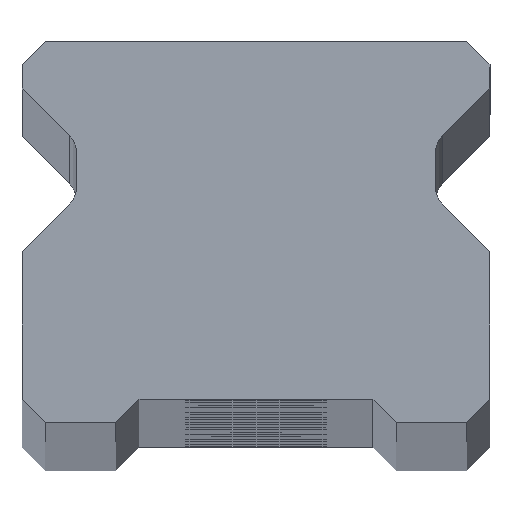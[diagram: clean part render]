
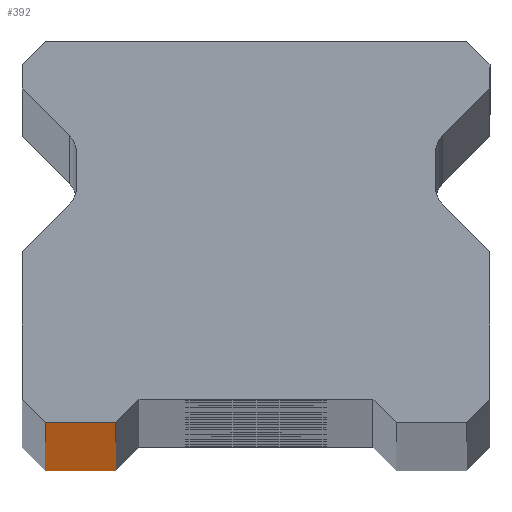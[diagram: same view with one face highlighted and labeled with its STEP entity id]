
A CAD part, top view. The second image highlights one B-rep face of the part: STEP entity #392.
In plain terms, the highlighted planar face has unit normal (0, -1, 0).
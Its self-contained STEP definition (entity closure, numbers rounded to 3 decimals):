
#63 = CARTESIAN_POINT ( 'NONE',  ( -6., 0., 590. ) ) ;
#316 = VECTOR ( 'NONE', #3672, 1000. ) ;
#318 = CARTESIAN_POINT ( 'NONE',  ( -6., 0., -590. ) ) ;
#392 = ADVANCED_FACE ( 'NONE', ( #1757 ), #2654, .F. ) ;
#437 = CARTESIAN_POINT ( 'NONE',  ( -6., 0., -590. ) ) ;
#467 = DIRECTION ( 'NONE',  ( 0., 0., -1. ) ) ;
#817 = EDGE_CURVE ( 'NONE', #2786, #1262, #3718, .T. ) ;
#838 = DIRECTION ( 'NONE',  ( 1., 0., 0. ) ) ;
#997 = VECTOR ( 'NONE', #1566, 1000. ) ;
#1137 = LINE ( 'NONE', #3721, #316 ) ;
#1141 = EDGE_CURVE ( 'NONE', #1262, #1530, #1137, .T. ) ;
#1262 = VERTEX_POINT ( 'NONE', #2136 ) ;
#1382 = DIRECTION ( 'NONE',  ( -1., 0., 0. ) ) ;
#1523 = VECTOR ( 'NONE', #838, 1000. ) ;
#1530 = VERTEX_POINT ( 'NONE', #437 ) ;
#1566 = DIRECTION ( 'NONE',  ( 0., 0., 1. ) ) ;
#1737 = DIRECTION ( 'NONE',  ( 0., 1., 0. ) ) ;
#1757 = FACE_OUTER_BOUND ( 'NONE', #3418, .T. ) ;
#1825 = ORIENTED_EDGE ( 'NONE', *, *, #1141, .T. ) ;
#1907 = EDGE_CURVE ( 'NONE', #1530, #3924, #3772, .T. ) ;
#1964 = CARTESIAN_POINT ( 'NONE',  ( -9., 0., 590. ) ) ;
#2091 = CARTESIAN_POINT ( 'NONE',  ( 10., 0., 590. ) ) ;
#2136 = CARTESIAN_POINT ( 'NONE',  ( -9., 0., -590. ) ) ;
#2243 = VECTOR ( 'NONE', #467, 1000. ) ;
#2272 = CARTESIAN_POINT ( 'NONE',  ( -9., 0., 590. ) ) ;
#2442 = EDGE_CURVE ( 'NONE', #2786, #3924, #3625, .T. ) ;
#2654 = PLANE ( 'NONE',  #3662 ) ;
#2786 = VERTEX_POINT ( 'NONE', #2272 ) ;
#3036 = ORIENTED_EDGE ( 'NONE', *, *, #2442, .F. ) ;
#3270 = ORIENTED_EDGE ( 'NONE', *, *, #817, .T. ) ;
#3418 = EDGE_LOOP ( 'NONE', ( #1825, #3876, #3036, #3270 ) ) ;
#3625 = LINE ( 'NONE', #2091, #1523 ) ;
#3662 = AXIS2_PLACEMENT_3D ( 'NONE', #3882, #1737, #1382 ) ;
#3672 = DIRECTION ( 'NONE',  ( 1., 0., 0. ) ) ;
#3718 = LINE ( 'NONE', #1964, #2243 ) ;
#3721 = CARTESIAN_POINT ( 'NONE',  ( 10., 0., -590. ) ) ;
#3772 = LINE ( 'NONE', #318, #997 ) ;
#3876 = ORIENTED_EDGE ( 'NONE', *, *, #1907, .T. ) ;
#3882 = CARTESIAN_POINT ( 'NONE',  ( 10., 0., 590. ) ) ;
#3924 = VERTEX_POINT ( 'NONE', #63 ) ;
